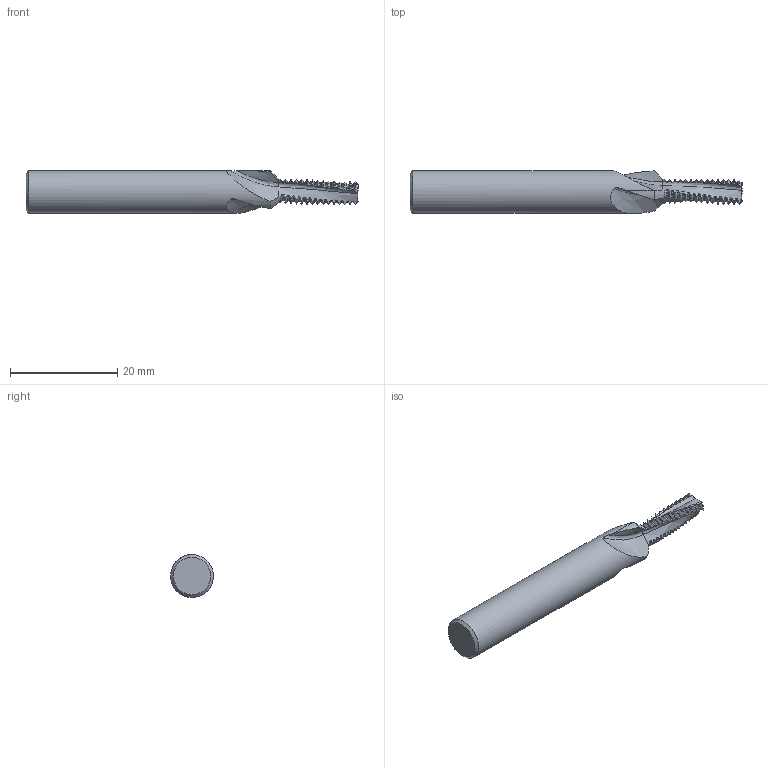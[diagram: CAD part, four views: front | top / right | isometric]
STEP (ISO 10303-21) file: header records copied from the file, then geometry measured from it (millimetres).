
FILE_DESCRIPTION(/* description */ (''),/* implementation_level */ '2;1');
FILE_NAME(/* name */ '00036016-STEP',/* time_stamp */ '2024-02-12T07:51:40+01:00',/* author */ (''),/* organization */ (''),/* preprocessor_version */ 'ST-DEVELOPER v16.5',/* originating_system */ 'HiCAD 2017 2201.0 Build 268',/* authorisation */ '');
FILE_SCHEMA (('AUTOMOTIVE_DESIGN { 1 0 10303 214 1 1 1 1 }'));
Length unit declared in the file: millimetre
Products named in the file (2): Root; ROTATIONSTEIL_0
Assembly tree (1 placements, depth 2):
  Root
    ROTATIONSTEIL_0
Bounding box: 62 x 7.99 x 8 mm (x, y, z)
Volume: 2279.5 mm3; surface area: 1474.5 mm2
Topology: 1 solids, 1 shells, 332 faces, 978 edges, 648 vertices
Faces by surface type: cylinder 92, cone 91, torus 87, bspline 60, plane 2
Full cylindrical faces by diameter (mm): 8 x1
Entity records: 34431 total; most frequent: CARTESIAN_POINT 17953, PRESENTATION_STYLE_ASSIGNMENT 1943, COLOUR_RGB 1943, DRAUGHTING_PRE_DEFINED_CURVE_FONT 1942, CURVE_STYLE 1942, OVER_RIDING_STYLED_ITEM 1942, ORIENTED_EDGE 1942, DIRECTION 1090
